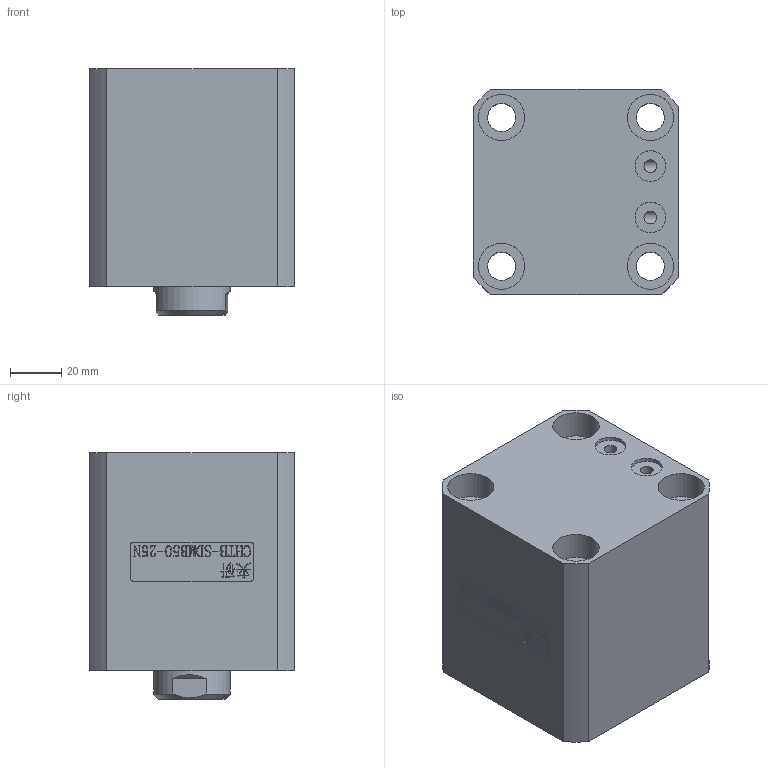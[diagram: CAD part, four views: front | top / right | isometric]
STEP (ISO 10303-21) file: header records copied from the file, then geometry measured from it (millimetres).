
FILE_DESCRIPTION(/* description */ (''),/* implementation_level */ '2;1');
FILE_NAME(/* name */ 'CHTB-SDMB50-25N.stp',/* time_stamp */ '2022-04-29T18:22:49+08:00',/* author */ (''),/* organization */ (''),/* preprocessor_version */ 'ST-DEVELOPER v16.7',/* originating_system */ 'SIEMENS PLM Software NX 12.0',/* authorisation */ '');
FILE_SCHEMA (('AUTOMOTIVE_DESIGN { 1 0 10303 214 3 1 1 1 }'));
Length unit declared in the file: millimetre
Products named in the file (1): CHTB-SDMB50-25N
Bounding box: 80 x 80 x 96 mm (x, y, z)
Volume: 451270.2 mm3; surface area: 97095.8 mm2
Topology: 5 solids, 5 shells, 501 faces, 1346 edges, 906 vertices
Faces by surface type: plane 308, extrusion 94, cylinder 53, bspline 20, cone 15, torus 11
Full cylindrical faces by diameter (mm): 4 x2, 5 x4, 11 x4, 12 x2, 18 x8, 19 x1, 30 x2, 39 x1, 44 x2, 46 x1, 50 x5, 55 x8, 59 x1
Entity records: 26667 total; most frequent: CARTESIAN_POINT 12582, ORIENTED_EDGE 2540, DIRECTION 1908, EDGE_CURVE 1270, VECTOR 930, VERTEX_POINT 895, LINE 836, EDGE_LOOP 616
